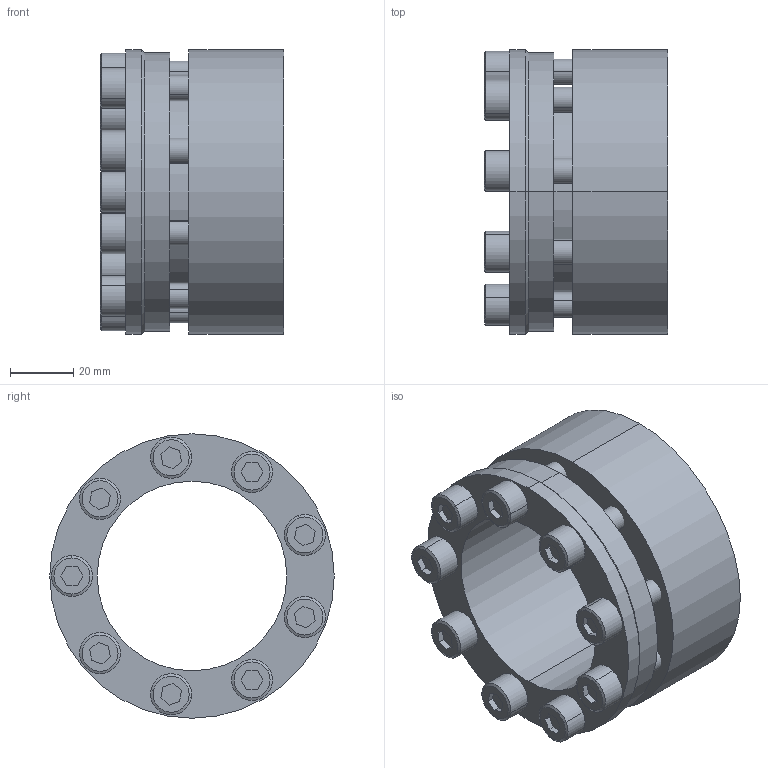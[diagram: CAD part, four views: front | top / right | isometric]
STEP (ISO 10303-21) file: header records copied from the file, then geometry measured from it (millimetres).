
FILE_DESCRIPTION (( 'STEP AP203' ), '1' );
FILE_NAME ('SD-60.step', '2009-09-29T16:31:51', ( 'USER' ), ( 'HOME' ), 'SwSTEP 2.0', 'SolidWorks 2007', '' );
FILE_SCHEMA (( 'CONFIG_CONTROL_DESIGN' ));
Length unit declared in the file: millimetre
Products named in the file (1): SD-60
Bounding box: 58 x 90 x 90 mm (x, y, z)
Volume: 165276 mm3; surface area: 55595.7 mm2
Topology: 10 solids, 10 shells, 196 faces, 446 edges, 290 vertices
Faces by surface type: plane 94, cylinder 82, cone 20
Entity records: 5671 total; most frequent: DIRECTION 1022, CARTESIAN_POINT 933, ORIENTED_EDGE 892, EDGE_CURVE 446, AXIS2_PLACEMENT_3D 379, VERTEX_POINT 290, VECTOR 264, LINE 264
